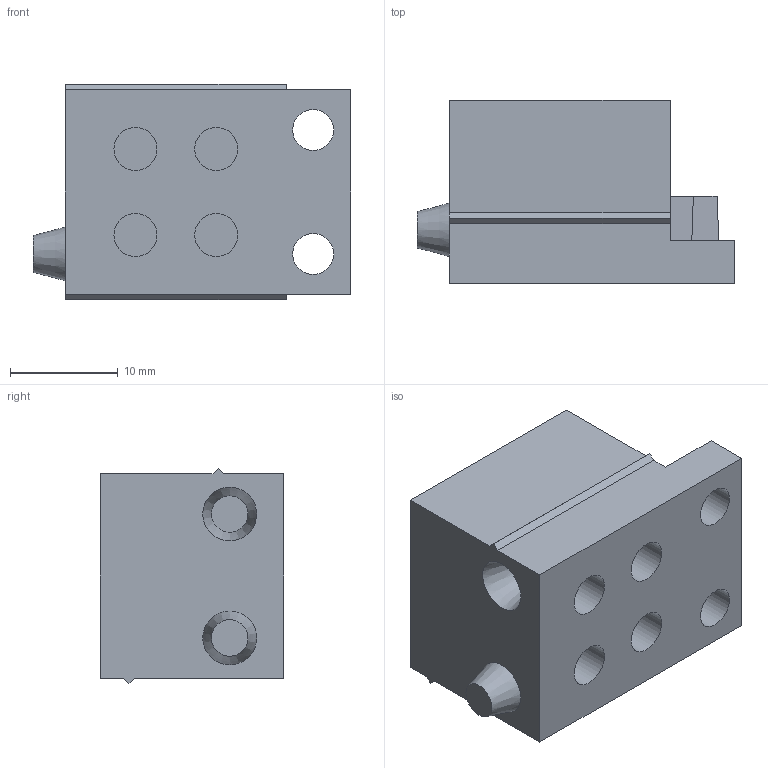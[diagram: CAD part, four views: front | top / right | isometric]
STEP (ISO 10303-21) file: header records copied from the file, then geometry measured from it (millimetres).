
FILE_DESCRIPTION(/* description */ ('STEP AP203'),/* implementation_level */ '2;1');
FILE_NAME(/* name */ '107836 TMS-STPG-GY',/* time_stamp */ '2024-10-04T14:43:07+02:00',/* author */ ('License CC BY-ND 4.0'),/* organization */ ('CADENAS'),/* preprocessor_version */ 'ST-DEVELOPER v19.3',/* originating_system */ 'PARTsolutions',/* authorisation */ ' ');
FILE_SCHEMA (('CONFIG_CONTROL_DESIGN'));
Length unit declared in the file: millimetre
Products named in the file (1): 107836 TMS-STPG-GY
Bounding box: 29.5 x 17 x 20 mm (x, y, z)
Volume: 6776.3 mm3; surface area: 2886.8 mm2
Topology: 1 solids, 1 shells, 44 faces, 96 edges, 64 vertices
Faces by surface type: plane 32, cylinder 10, cone 2
Full cylindrical faces by diameter (mm): 3.8 x2, 4 x8
Entity records: 1182 total; most frequent: DIRECTION 198, CARTESIAN_POINT 193, ORIENTED_EDGE 168, EDGE_CURVE 84, EDGE_LOOP 70, FACE_BOUND 70, AXIS2_PLACEMENT_3D 69, VERTEX_POINT 64
